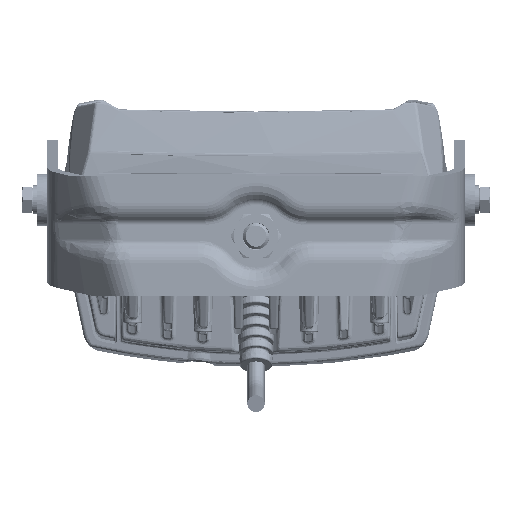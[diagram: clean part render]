
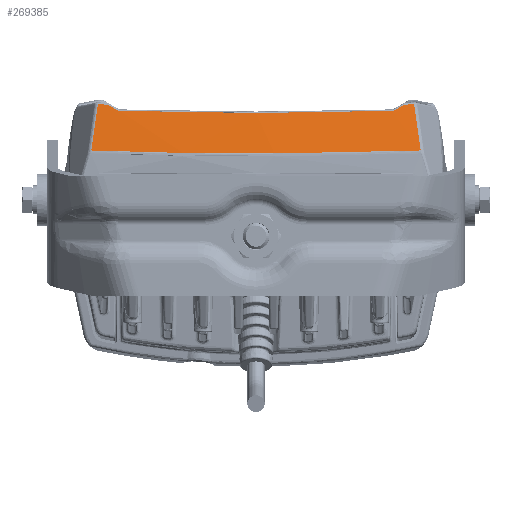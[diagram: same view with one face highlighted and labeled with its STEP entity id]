
A CAD part, front view. The second image highlights one B-rep face of the part: STEP entity #269385.
In plain terms, the highlighted free-form (B-spline) face has degree [5, 1] with [9, 2] control points.
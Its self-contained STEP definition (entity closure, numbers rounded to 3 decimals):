
#265863=CARTESIAN_POINT('Vertex',(-60.614,-54.178,32.599)) ;
#265872=CARTESIAN_POINT('Vertex',(-63.114,-59.185,14.886)) ;
#265876=CARTESIAN_POINT('Control Point',(-63.114,-59.185,14.886)) ;
#265877=CARTESIAN_POINT('Control Point',(-62.614,-58.183,18.429)) ;
#265878=CARTESIAN_POINT('Control Point',(-62.115,-57.181,21.972)) ;
#265879=CARTESIAN_POINT('Control Point',(-61.615,-56.179,25.514)) ;
#265880=CARTESIAN_POINT('Control Point',(-61.115,-55.178,29.057)) ;
#265881=CARTESIAN_POINT('Control Point',(-60.614,-54.178,32.599)) ;
#269283=CARTESIAN_POINT('Control Point',(-63.116,-59.199,14.838)) ;
#269284=CARTESIAN_POINT('Control Point',(-62.089,-54.061,32.702)) ;
#269285=CARTESIAN_POINT('Control Point',(-50.517,-60.041,14.368)) ;
#269286=CARTESIAN_POINT('Control Point',(-49.7,-54.931,32.236)) ;
#269287=CARTESIAN_POINT('Control Point',(-37.9,-60.672,14.016)) ;
#269288=CARTESIAN_POINT('Control Point',(-37.289,-55.582,31.888)) ;
#269289=CARTESIAN_POINT('Control Point',(-25.27,-61.092,13.782)) ;
#269290=CARTESIAN_POINT('Control Point',(-24.864,-56.016,31.656)) ;
#269291=CARTESIAN_POINT('Control Point',(0.,-61.513,13.549)) ;
#269292=CARTESIAN_POINT('Control Point',(0.,-56.45,31.424)) ;
#269293=CARTESIAN_POINT('Control Point',(25.27,-61.092,13.782)) ;
#269294=CARTESIAN_POINT('Control Point',(24.864,-56.016,31.656)) ;
#269295=CARTESIAN_POINT('Control Point',(37.9,-60.672,14.016)) ;
#269296=CARTESIAN_POINT('Control Point',(37.289,-55.582,31.888)) ;
#269297=CARTESIAN_POINT('Control Point',(50.517,-60.041,14.368)) ;
#269298=CARTESIAN_POINT('Control Point',(49.7,-54.931,32.236)) ;
#269299=CARTESIAN_POINT('Control Point',(63.116,-59.199,14.838)) ;
#269300=CARTESIAN_POINT('Control Point',(62.089,-54.061,32.702)) ;
#269302=CARTESIAN_POINT('Control Point',(63.114,-59.185,14.886)) ;
#269303=CARTESIAN_POINT('Control Point',(31.621,-61.291,13.711)) ;
#269304=CARTESIAN_POINT('Control Point',(0.002,-61.986,13.33)) ;
#269305=CARTESIAN_POINT('Control Point',(-31.618,-61.291,13.711)) ;
#269306=CARTESIAN_POINT('Control Point',(-63.114,-59.185,14.886)) ;
#269307=CARTESIAN_POINT('Vertex',(63.114,-59.185,14.886)) ;
#269311=CARTESIAN_POINT('Control Point',(60.614,-54.178,32.599)) ;
#269312=CARTESIAN_POINT('Control Point',(61.448,-55.845,26.695)) ;
#269313=CARTESIAN_POINT('Control Point',(62.281,-57.514,20.791)) ;
#269314=CARTESIAN_POINT('Control Point',(63.114,-59.185,14.886)) ;
#269315=CARTESIAN_POINT('Vertex',(60.614,-54.178,32.599)) ;
#269319=CARTESIAN_POINT('Control Point',(60.614,-54.178,32.599)) ;
#269320=CARTESIAN_POINT('Control Point',(59.365,-54.263,32.553)) ;
#269321=CARTESIAN_POINT('Control Point',(58.115,-54.346,32.508)) ;
#269322=CARTESIAN_POINT('Control Point',(56.865,-54.427,32.465)) ;
#269323=CARTESIAN_POINT('Vertex',(56.865,-54.427,32.465)) ;
#269327=CARTESIAN_POINT('Control Point',(56.865,-54.427,32.465)) ;
#269328=CARTESIAN_POINT('Control Point',(55.629,-54.701,31.751)) ;
#269329=CARTESIAN_POINT('Control Point',(54.392,-54.972,31.038)) ;
#269330=CARTESIAN_POINT('Control Point',(53.153,-55.241,30.323)) ;
#269331=CARTESIAN_POINT('Vertex',(53.153,-55.241,30.323)) ;
#269335=CARTESIAN_POINT('Control Point',(52.254,-55.358,30.071)) ;
#269336=CARTESIAN_POINT('Control Point',(52.566,-55.34,30.081)) ;
#269337=CARTESIAN_POINT('Control Point',(52.877,-55.3,30.164)) ;
#269338=CARTESIAN_POINT('Control Point',(53.153,-55.241,30.323)) ;
#269339=CARTESIAN_POINT('Vertex',(52.254,-55.358,30.071)) ;
#269343=CARTESIAN_POINT('Control Point',(52.254,-55.358,30.071)) ;
#269344=CARTESIAN_POINT('Control Point',(26.167,-56.886,29.242)) ;
#269345=CARTESIAN_POINT('Control Point',(0.,-57.391,28.97)) ;
#269346=CARTESIAN_POINT('Control Point',(-26.167,-56.886,29.242)) ;
#269347=CARTESIAN_POINT('Control Point',(-52.254,-55.358,30.071)) ;
#269348=CARTESIAN_POINT('Vertex',(-52.254,-55.358,30.071)) ;
#269352=CARTESIAN_POINT('Control Point',(-53.153,-55.241,30.323)) ;
#269353=CARTESIAN_POINT('Control Point',(-52.877,-55.3,30.164)) ;
#269354=CARTESIAN_POINT('Control Point',(-52.567,-55.34,30.081)) ;
#269355=CARTESIAN_POINT('Control Point',(-52.254,-55.358,30.071)) ;
#269356=CARTESIAN_POINT('Vertex',(-53.153,-55.241,30.323)) ;
#269360=CARTESIAN_POINT('Control Point',(-53.153,-55.241,30.323)) ;
#269361=CARTESIAN_POINT('Control Point',(-54.392,-54.972,31.038)) ;
#269362=CARTESIAN_POINT('Control Point',(-55.629,-54.701,31.751)) ;
#269363=CARTESIAN_POINT('Control Point',(-56.865,-54.427,32.465)) ;
#269364=CARTESIAN_POINT('Vertex',(-56.865,-54.427,32.465)) ;
#269368=CARTESIAN_POINT('Control Point',(-56.865,-54.427,32.465)) ;
#269369=CARTESIAN_POINT('Control Point',(-58.115,-54.346,32.508)) ;
#269370=CARTESIAN_POINT('Control Point',(-59.365,-54.263,32.553)) ;
#269371=CARTESIAN_POINT('Control Point',(-60.614,-54.178,32.599)) ;
#269374=ORIENTED_EDGE('',*,*,#265882,.T.) ;
#269375=ORIENTED_EDGE('',*,*,#269309,.T.) ;
#269376=ORIENTED_EDGE('',*,*,#269317,.T.) ;
#269377=ORIENTED_EDGE('',*,*,#269325,.T.) ;
#269378=ORIENTED_EDGE('',*,*,#269333,.T.) ;
#269379=ORIENTED_EDGE('',*,*,#269341,.T.) ;
#269380=ORIENTED_EDGE('',*,*,#269350,.T.) ;
#269381=ORIENTED_EDGE('',*,*,#269358,.T.) ;
#269382=ORIENTED_EDGE('',*,*,#269366,.T.) ;
#269383=ORIENTED_EDGE('',*,*,#269372,.T.) ;
#269385=ADVANCED_FACE('HOUSING_GR',(#269384),#269282,.T.) ;
#265875=B_SPLINE_CURVE_WITH_KNOTS('',5,(#265876,#265877,#265878,#265879,#265880,#265881),.UNSPECIFIED.,.F.,.U.,(6,6),(24.898,51.218),.UNSPECIFIED.) ;
#269301=B_SPLINE_CURVE_WITH_KNOTS('',4,(#269302,#269303,#269304,#269305,#269306),.UNSPECIFIED.,.F.,.U.,(5,5),(46.241,238.816),.UNSPECIFIED.) ;
#269310=B_SPLINE_CURVE_WITH_KNOTS('',3,(#269311,#269312,#269313,#269314),.UNSPECIFIED.,.F.,.U.,(4,4),(10.155,36.475),.UNSPECIFIED.) ;
#269318=B_SPLINE_CURVE_WITH_KNOTS('',3,(#269319,#269320,#269321,#269322),.UNSPECIFIED.,.F.,.U.,(4,4),(43.343,49.529),.UNSPECIFIED.) ;
#269326=B_SPLINE_CURVE_WITH_KNOTS('',3,(#269327,#269328,#269329,#269330),.UNSPECIFIED.,.F.,.U.,(4,4),(16.07,23.018),.UNSPECIFIED.) ;
#269334=B_SPLINE_CURVE_WITH_KNOTS('',3,(#269335,#269336,#269337,#269338),.UNSPECIFIED.,.F.,.U.,(4,4),(0.329,1.938),.UNSPECIFIED.) ;
#269342=B_SPLINE_CURVE_WITH_KNOTS('',4,(#269343,#269344,#269345,#269346,#269347),.UNSPECIFIED.,.F.,.U.,(5,5),(57.323,229.077),.UNSPECIFIED.) ;
#269351=B_SPLINE_CURVE_WITH_KNOTS('',3,(#269352,#269353,#269354,#269355),.UNSPECIFIED.,.F.,.U.,(4,4),(0.309,1.919),.UNSPECIFIED.) ;
#269359=B_SPLINE_CURVE_WITH_KNOTS('',3,(#269360,#269361,#269362,#269363),.UNSPECIFIED.,.F.,.U.,(4,4),(65.234,72.182),.UNSPECIFIED.) ;
#269367=B_SPLINE_CURVE_WITH_KNOTS('',3,(#269368,#269369,#269370,#269371),.UNSPECIFIED.,.F.,.U.,(4,4),(236.827,243.014),.UNSPECIFIED.) ;
#269282=B_SPLINE_SURFACE_WITH_KNOTS('',5,1,((#269283,#269284),(#269285,#269286),(#269287,#269288),(#269289,#269290),(#269291,#269292),(#269293,#269294),(#269295,#269296),(#269297,#269298),(#269299,#269300)),.UNSPECIFIED.,.F.,.F.,.U.,(6,3,6),(2,2),(50.62,131.731,212.842),(0.528,19.173),.UNSPECIFIED.) ;
#265882=EDGE_CURVE('',#265864,#265873,#265875,.F.) ;
#269309=EDGE_CURVE('',#265873,#269308,#269301,.F.) ;
#269317=EDGE_CURVE('',#269308,#269316,#269310,.F.) ;
#269325=EDGE_CURVE('',#269316,#269324,#269318,.T.) ;
#269333=EDGE_CURVE('',#269324,#269332,#269326,.T.) ;
#269341=EDGE_CURVE('',#269332,#269340,#269334,.F.) ;
#269350=EDGE_CURVE('',#269340,#269349,#269342,.T.) ;
#269358=EDGE_CURVE('',#269349,#269357,#269351,.F.) ;
#269366=EDGE_CURVE('',#269357,#269365,#269359,.T.) ;
#269372=EDGE_CURVE('',#269365,#265864,#269367,.T.) ;
#269373=EDGE_LOOP('',(#269374,#269375,#269376,#269377,#269378,#269379,#269380,#269381,#269382,#269383)) ;
#269384=FACE_OUTER_BOUND('',#269373,.T.) ;
#265864=VERTEX_POINT('',#265863) ;
#265873=VERTEX_POINT('',#265872) ;
#269308=VERTEX_POINT('',#269307) ;
#269316=VERTEX_POINT('',#269315) ;
#269324=VERTEX_POINT('',#269323) ;
#269332=VERTEX_POINT('',#269331) ;
#269340=VERTEX_POINT('',#269339) ;
#269349=VERTEX_POINT('',#269348) ;
#269357=VERTEX_POINT('',#269356) ;
#269365=VERTEX_POINT('',#269364) ;
